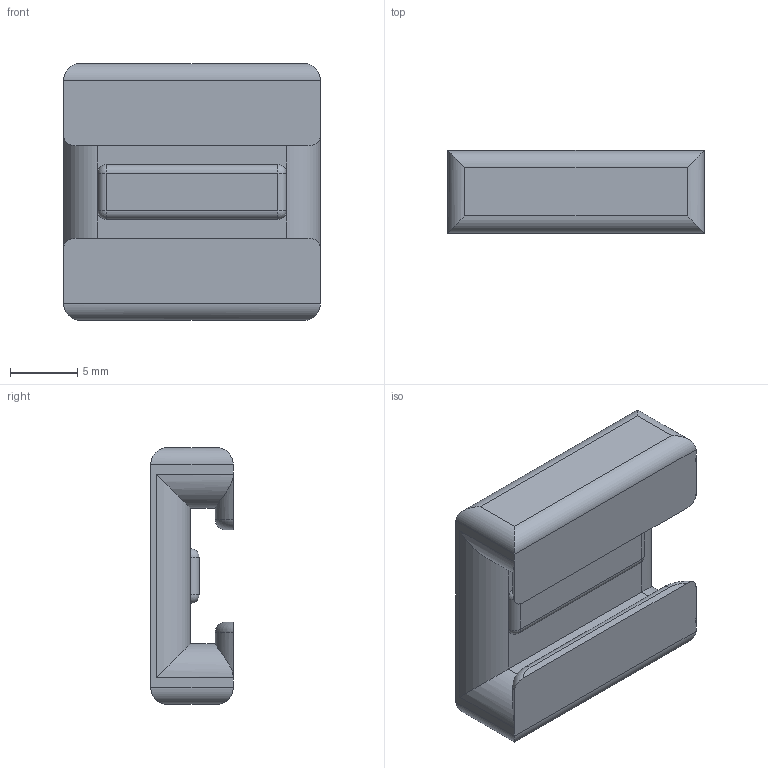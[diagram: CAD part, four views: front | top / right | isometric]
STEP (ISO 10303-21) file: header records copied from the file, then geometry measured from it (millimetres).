
FILE_DESCRIPTION (( 'STEP AP214' ), '1' );
FILE_NAME ('Sensor Platform.STEP', '2021-11-17T20:31:38', ( '' ), ( '' ), 'SwSTEP 2.0', 'SolidWorks 2021', '' );
FILE_SCHEMA (( 'AUTOMOTIVE_DESIGN' ));
Length unit declared in the file: inch
Products named in the file (1): Sensor Platform
Bounding box: 19.05 x 6.13 x 19.05 mm (x, y, z)
Volume: 1381.2 mm3; surface area: 1372.4 mm2
Topology: 1 solids, 1 shells, 53 faces, 126 edges, 72 vertices
Faces by surface type: cylinder 24, plane 21, torus 4, sphere 4
Entity records: 1586 total; most frequent: CARTESIAN_POINT 386, ORIENTED_EDGE 244, DIRECTION 238, EDGE_CURVE 122, AXIS2_PLACEMENT_3D 82, LINE 74, VECTOR 74, VERTEX_POINT 72
